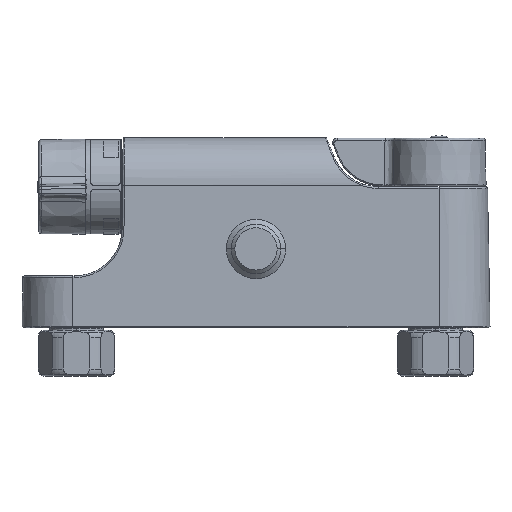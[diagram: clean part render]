
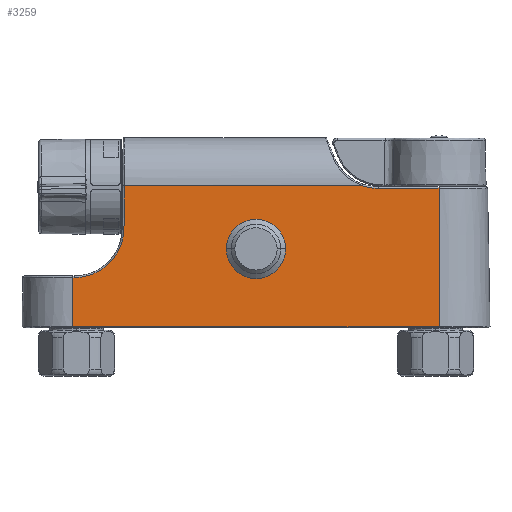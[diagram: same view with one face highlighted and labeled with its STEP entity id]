
A CAD part, front view. The second image highlights one B-rep face of the part: STEP entity #3259.
In plain terms, the highlighted planar face has unit normal (0, -1, 0.009).
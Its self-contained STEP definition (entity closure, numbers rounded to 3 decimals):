
#2595=DIRECTION('',(1.,0.,0.));
#2596=VECTOR('',#2595,153.);
#2597=CARTESIAN_POINT('',(-76.5,-20.811,-32.6));
#2598=LINE('',#2597,#2596);
#2599=DIRECTION('',(0.,0.009,1.));
#2600=VECTOR('',#2599,20.607);
#2601=CARTESIAN_POINT('',(-76.5,-20.811,-32.6));
#2602=LINE('',#2601,#2600);
#2624=DIRECTION('',(0.,0.009,1.));
#2625=VECTOR('',#2624,57.908);
#2626=CARTESIAN_POINT('',(76.5,-20.811,-32.6));
#2627=LINE('',#2626,#2625);
#2665=DIRECTION('',(1.,0.,0.));
#2666=VECTOR('',#2665,99.553);
#2667=CARTESIAN_POINT('',(-55.026,-20.297,
26.385));
#2668=LINE('',#2667,#2666);
#2685=DIRECTION('',(-1.,0.,0.));
#2686=VECTOR('',#2685,25.395);
#2687=CARTESIAN_POINT('',(76.5,-20.306,25.306));
#2688=LINE('',#2687,#2686);
#2693=CARTESIAN_POINT('',(51.105,-20.306,25.306));
#2694=CARTESIAN_POINT('',(50.361,-20.306,25.306));
#2695=CARTESIAN_POINT('',(48.88,-20.305,25.386));
#2696=CARTESIAN_POINT('',(46.661,-20.302,25.75));
#2697=CARTESIAN_POINT('',(45.233,-20.299,26.147));
#2698=CARTESIAN_POINT('',(44.527,-20.297,26.385));
#2879=CARTESIAN_POINT('',(-55.181,-20.452,
8.525));
#2880=CARTESIAN_POINT('',(-55.192,-20.463,
7.326));
#2881=CARTESIAN_POINT('',(-55.417,-20.484,
4.963));
#2882=CARTESIAN_POINT('',(-56.375,-20.514,
1.469));
#2883=CARTESIAN_POINT('',(-57.919,-20.543,
-1.792));
#2884=CARTESIAN_POINT('',(-60.007,-20.568,
-4.742));
#2885=CARTESIAN_POINT('',(-62.572,-20.59,
-7.285));
#2886=CARTESIAN_POINT('',(-65.541,-20.608,
-9.346));
#2887=CARTESIAN_POINT('',(-68.814,-20.622,
-10.862));
#2888=CARTESIAN_POINT('',(-72.317,-20.63,
-11.79));
#2889=CARTESIAN_POINT('',(-74.681,-20.632,
-11.994));
#2890=CARTESIAN_POINT('',(-75.881,-20.632,
-11.994));
#2905=DIRECTION('',(1.,0.,0.));
#2906=VECTOR('',#2905,0.619);
#2907=CARTESIAN_POINT('',(-76.5,-20.632,-11.994));
#2908=LINE('',#2907,#2906);
#3022=CARTESIAN_POINT('',(-55.026,-20.297,
26.385));
#3069=DIRECTION('',(-0.009,-0.009,-1.));
#3070=VECTOR('',#3069,17.86);
#3071=CARTESIAN_POINT('',(-55.026,-20.297,
26.385));
#3072=LINE('',#3071,#3070);
#3153=CARTESIAN_POINT('',(76.5,-20.306,25.306));
#3154=CARTESIAN_POINT('',(51.105,-20.306,25.306));
#3155=VERTEX_POINT('',#3153);
#3156=VERTEX_POINT('',#3154);
#3161=VERTEX_POINT('',#2698);
#3175=VERTEX_POINT('',#2879);
#3176=VERTEX_POINT('',#2890);
#3179=CARTESIAN_POINT('',(-76.5,-20.632,-11.994));
#3180=VERTEX_POINT('',#3179);
#3195=VERTEX_POINT('',#3022);
#3197=CARTESIAN_POINT('',(-76.5,-20.811,-32.6));
#3198=CARTESIAN_POINT('',(76.5,-20.811,-32.6));
#3199=VERTEX_POINT('',#3197);
#3200=VERTEX_POINT('',#3198);
#3234=CARTESIAN_POINT('',(-76.5,-20.3,26.));
#3235=DIRECTION('',(0.,-1.,0.009));
#3236=DIRECTION('',(1.,0.,0.));
#3237=AXIS2_PLACEMENT_3D('',#3234,#3235,#3236);
#3238=PLANE('',#3237);
#3240=ORIENTED_EDGE('',*,*,#3239,.F.);
#3242=ORIENTED_EDGE('',*,*,#3241,.T.);
#3244=ORIENTED_EDGE('',*,*,#3243,.T.);
#3246=ORIENTED_EDGE('',*,*,#3245,.F.);
#3248=ORIENTED_EDGE('',*,*,#3247,.F.);
#3250=ORIENTED_EDGE('',*,*,#3249,.T.);
#3252=ORIENTED_EDGE('',*,*,#3251,.F.);
#3254=ORIENTED_EDGE('',*,*,#3253,.F.);
#3256=ORIENTED_EDGE('',*,*,#3255,.F.);
#3257=EDGE_LOOP('',(#3240,#3242,#3244,#3246,#3248,#3250,#3252,#3254,#3256));
#3258=FACE_OUTER_BOUND('',#3257,.F.);
#3259=ADVANCED_FACE('',(#3258),#3238,.T.);
#2699=B_SPLINE_CURVE_WITH_KNOTS('',3,(#2693,#2694,#2695,#2696,#2697,#2698),
.UNSPECIFIED.,.F.,.F.,(4,1,1,4),(0.,0.333,0.667,1.),
.UNSPECIFIED.);
#2891=B_SPLINE_CURVE_WITH_KNOTS('',3,(#2879,#2880,#2881,#2882,#2883,#2884,#2885,
#2886,#2887,#2888,#2889,#2890),.UNSPECIFIED.,.F.,.F.,(4,1,1,1,1,1,1,1,1,4),
(0.,0.111,0.222,0.333,0.444,
0.556,0.667,0.778,0.889,1.),
.UNSPECIFIED.);
#3239=EDGE_CURVE('',#3199,#3200,#2598,.T.);
#3241=EDGE_CURVE('',#3199,#3180,#2602,.T.);
#3243=EDGE_CURVE('',#3180,#3176,#2908,.T.);
#3245=EDGE_CURVE('',#3175,#3176,#2891,.T.);
#3247=EDGE_CURVE('',#3195,#3175,#3072,.T.);
#3249=EDGE_CURVE('',#3195,#3161,#2668,.T.);
#3251=EDGE_CURVE('',#3156,#3161,#2699,.T.);
#3253=EDGE_CURVE('',#3155,#3156,#2688,.T.);
#3255=EDGE_CURVE('',#3200,#3155,#2627,.T.);
